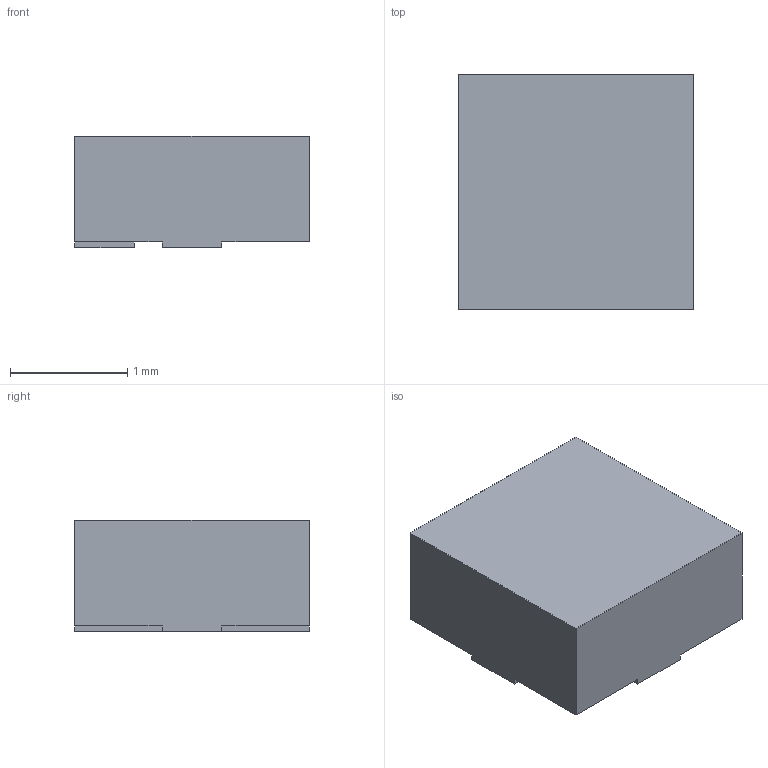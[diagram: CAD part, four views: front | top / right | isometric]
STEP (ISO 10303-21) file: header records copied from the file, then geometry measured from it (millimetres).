
FILE_DESCRIPTION(('STEP AP203'), '1');
FILE_NAME('栖闉罻', '', ('UNSPECIFIED'), ('UNSPECIFIED'), 'ASCON STEP Converter 1.6', 'ASCON Math Kernel', '');
FILE_SCHEMA(('CONFIG_CONTROL_DESIGN'));
Length unit declared in the file: millimetre
Assembly tree (1 placements, depth 2):
  (unnamed)
    (unnamed)
Bounding box: 2 x 2 x 0.95 mm (x, y, z)
Volume: 3.7 mm3; surface area: 16.1 mm2
Topology: 1 solids, 2 shells, 37 faces, 99 edges, 66 vertices
Faces by surface type: plane 33, cylinder 4
Entity records: 1533 total; most frequent: CARTESIAN_POINT 204, ORIENTED_EDGE 198, DIRECTION 185, EDGE_CURVE 99, LINE 91, VECTOR 91, VERTEX_POINT 66, AXIS2_PLACEMENT_3D 47
